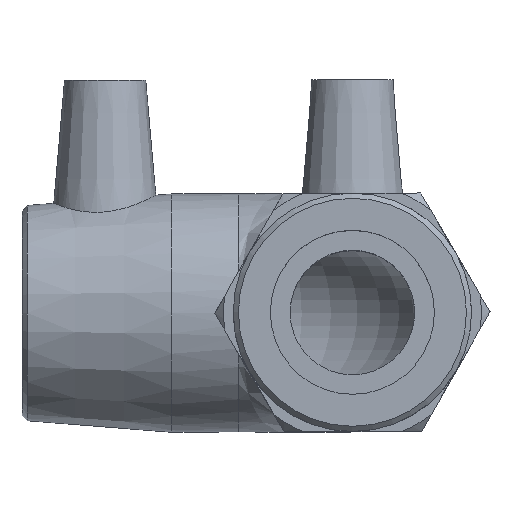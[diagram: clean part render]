
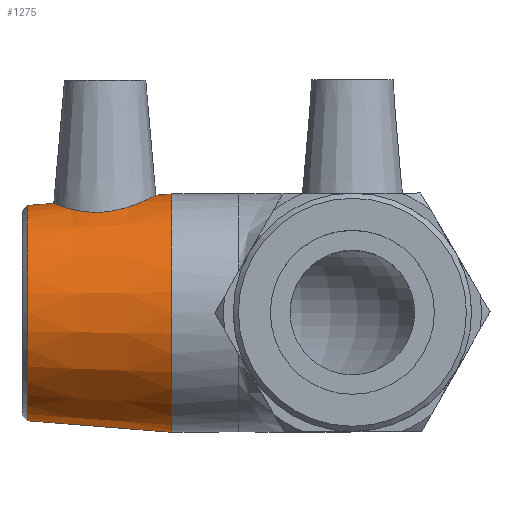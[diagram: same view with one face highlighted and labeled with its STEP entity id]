
A CAD part, top view. The second image highlights one B-rep face of the part: STEP entity #1275.
In plain terms, the highlighted conical face has half-angle 4.546 degrees and reference radius 20.9 mm.
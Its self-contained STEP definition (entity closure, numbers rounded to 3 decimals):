
#17=B_SPLINE_CURVE_WITH_KNOTS('',3,(#2183,#2184,#2185,#2186,#2187,#2188,
#2189,#2190,#2191,#2192,#2193,#2194,#2195,#2196,#2197,#2198,#2199,#2200,
#2201,#2202,#2203,#2204,#2205,#2206,#2207,#2208,#2209,#2210,#2211,#2212,
#2213,#2214,#2215,#2216),.UNSPECIFIED.,.T.,.F.,(4,2,2,2,2,2,2,2,2,2,2,2,
2,2,2,2,4),(0.,0.353,0.705,1.061,1.416,
1.771,2.126,2.479,2.832,3.214,
3.597,3.968,4.34,4.712,5.083,
5.466,5.848),.UNSPECIFIED.);
#24=FACE_BOUND('',#250,.T.);
#25=FACE_BOUND('',#251,.T.);
#123=CONICAL_SURFACE('',#1411,20.9,4.546);
#168=FACE_OUTER_BOUND('',#249,.T.);
#249=EDGE_LOOP('',(#1043));
#250=EDGE_LOOP('',(#1044));
#251=EDGE_LOOP('',(#1045));
#377=CIRCLE('',#1410,19.876);
#378=CIRCLE('',#1412,22.);
#604=VERTEX_POINT('',#2177);
#605=VERTEX_POINT('',#2180);
#606=VERTEX_POINT('',#2182);
#765=EDGE_CURVE('',#604,#604,#377,.T.);
#766=EDGE_CURVE('',#605,#605,#378,.T.);
#767=EDGE_CURVE('',#606,#606,#17,.T.);
#1043=ORIENTED_EDGE('',*,*,#766,.F.);
#1044=ORIENTED_EDGE('',*,*,#767,.T.);
#1045=ORIENTED_EDGE('',*,*,#765,.F.);
#1275=ADVANCED_FACE('',(#168,#24,#25),#123,.T.);
#1410=AXIS2_PLACEMENT_3D('',#2178,#1719,#1720);
#1411=AXIS2_PLACEMENT_3D('',#2179,#1721,#1722);
#1412=AXIS2_PLACEMENT_3D('',#2181,#1723,#1724);
#1719=DIRECTION('center_axis',(-1.,0.,0.));
#1720=DIRECTION('ref_axis',(0.,-1.,0.));
#1721=DIRECTION('center_axis',(1.,0.,0.));
#1722=DIRECTION('ref_axis',(0.,1.,0.));
#1723=DIRECTION('center_axis',(1.,0.,0.));
#1724=DIRECTION('ref_axis',(0.,0.,-1.));
#2177=CARTESIAN_POINT('',(-60.043,19.876,0.));
#2178=CARTESIAN_POINT('Origin',(-60.043,0.,0.));
#2179=CARTESIAN_POINT('Origin',(-47.167,0.,
0.));
#2180=CARTESIAN_POINT('',(-33.333,22.,0.));
#2181=CARTESIAN_POINT('Origin',(-33.333,0.,
0.));
#2182=CARTESIAN_POINT('',(-46.06,18.653,9.621));
#2183=CARTESIAN_POINT('Ctrl Pts',(-46.06,18.653,9.621));
#2184=CARTESIAN_POINT('Ctrl Pts',(-47.232,18.57,9.579));
#2185=CARTESIAN_POINT('Ctrl Pts',(-48.468,18.611,9.295));
#2186=CARTESIAN_POINT('Ctrl Pts',(-50.711,18.899,8.26));
#2187=CARTESIAN_POINT('Ctrl Pts',(-51.72,19.135,7.511));
#2188=CARTESIAN_POINT('Ctrl Pts',(-53.307,19.583,5.822));
#2189=CARTESIAN_POINT('Ctrl Pts',(-53.996,19.827,4.762));
#2190=CARTESIAN_POINT('Ctrl Pts',(-54.912,20.17,2.443));
#2191=CARTESIAN_POINT('Ctrl Pts',(-55.139,20.266,1.184));
#2192=CARTESIAN_POINT('Ctrl Pts',(-55.139,20.266,-1.184));
#2193=CARTESIAN_POINT('Ctrl Pts',(-54.912,20.17,-2.443));
#2194=CARTESIAN_POINT('Ctrl Pts',(-53.996,19.827,-4.762));
#2195=CARTESIAN_POINT('Ctrl Pts',(-53.307,19.583,-5.822));
#2196=CARTESIAN_POINT('Ctrl Pts',(-51.72,19.135,-7.511));
#2197=CARTESIAN_POINT('Ctrl Pts',(-50.711,18.899,-8.26));
#2198=CARTESIAN_POINT('Ctrl Pts',(-48.468,18.611,-9.295));
#2199=CARTESIAN_POINT('Ctrl Pts',(-47.232,18.57,-9.579));
#2200=CARTESIAN_POINT('Ctrl Pts',(-44.79,18.743,-9.668));
#2201=CARTESIAN_POINT('Ctrl Pts',(-43.46,18.986,-9.438));
#2202=CARTESIAN_POINT('Ctrl Pts',(-41.044,19.652,-8.459));
#2203=CARTESIAN_POINT('Ctrl Pts',(-39.955,20.064,-7.709));
#2204=CARTESIAN_POINT('Ctrl Pts',(-38.259,20.779,-5.997));
#2205=CARTESIAN_POINT('Ctrl Pts',(-37.525,21.135,-4.924));
#2206=CARTESIAN_POINT('Ctrl Pts',(-36.541,21.629,-2.546));
#2207=CARTESIAN_POINT('Ctrl Pts',(-36.292,21.765,-1.239));
#2208=CARTESIAN_POINT('Ctrl Pts',(-36.292,21.765,1.239));
#2209=CARTESIAN_POINT('Ctrl Pts',(-36.541,21.629,2.546));
#2210=CARTESIAN_POINT('Ctrl Pts',(-37.525,21.135,4.924));
#2211=CARTESIAN_POINT('Ctrl Pts',(-38.259,20.779,5.997));
#2212=CARTESIAN_POINT('Ctrl Pts',(-39.955,20.064,7.709));
#2213=CARTESIAN_POINT('Ctrl Pts',(-41.044,19.652,8.459));
#2214=CARTESIAN_POINT('Ctrl Pts',(-43.46,18.986,9.438));
#2215=CARTESIAN_POINT('Ctrl Pts',(-44.79,18.743,9.668));
#2216=CARTESIAN_POINT('Ctrl Pts',(-46.06,18.653,9.621));
